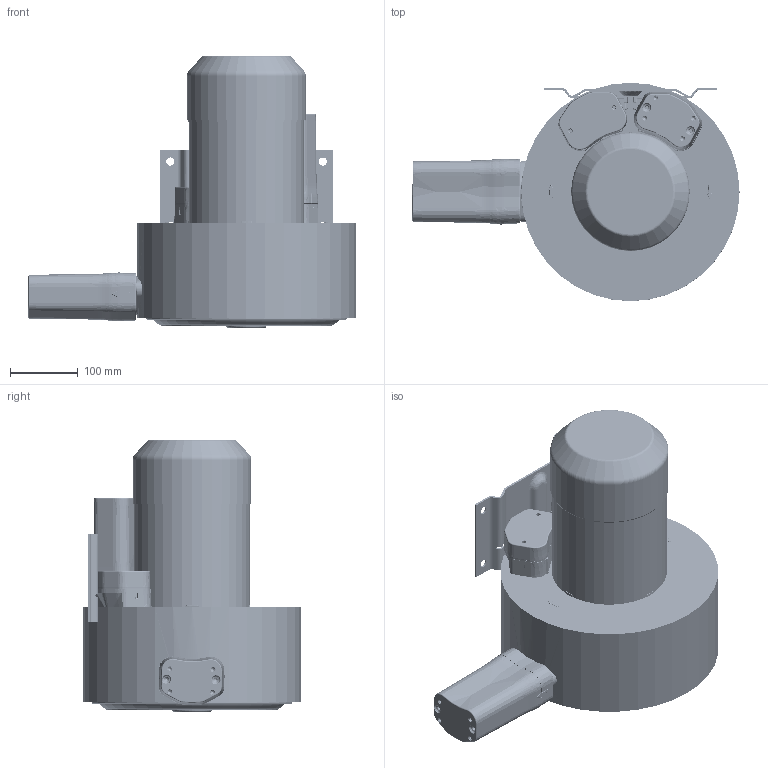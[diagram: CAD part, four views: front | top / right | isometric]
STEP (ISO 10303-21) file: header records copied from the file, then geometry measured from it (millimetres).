
FILE_DESCRIPTION((''),'2;1');
FILE_NAME('GHBH002342R4-3D','2017-09-22T12:06:47',('guanli'),(''),'CREO PARAMETRIC BY PTC INC, 2017110','CREO PARAMETRIC BY PTC INC, 2017110','');
FILE_SCHEMA(('AUTOMOTIVE_DESIGN { 1 0 10303 214 1 1 1 1 }'));
Length unit declared in the file: millimetre
Products named in the file (1): GHBH002342R4-3D
Bounding box: 482.56 x 322 x 401.25 mm (x, y, z)
Volume: 18436183.7 mm3; surface area: 1592077.9 mm2
Topology: 1 solids, 12 shells, 9285 faces, 22277 edges, 13049 vertices
Faces by surface type: bspline 2565, cylinder 2457, plane 1394, torus 1366, cone 1205, sphere 290, extrusion 8
Entity records: 433305 total; most frequent: CARTESIAN_POINT 240906, ORIENTED_EDGE 44466, DIRECTION 34789, EDGE_CURVE 22233, AXIS2_PLACEMENT_3D 14734, VERTEX_POINT 13049, EDGE_LOOP 9518, FACE_OUTER_BOUND 9285
